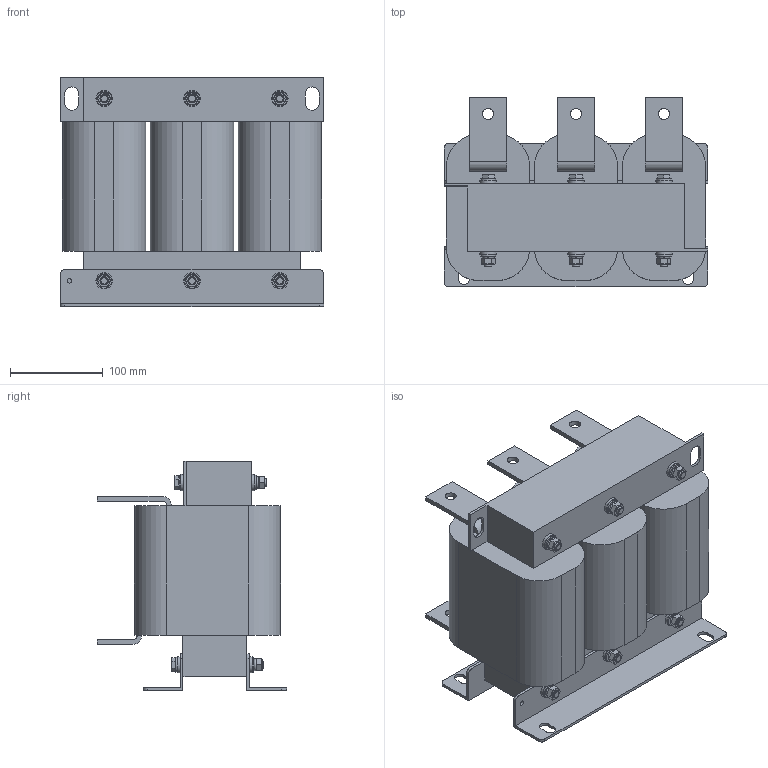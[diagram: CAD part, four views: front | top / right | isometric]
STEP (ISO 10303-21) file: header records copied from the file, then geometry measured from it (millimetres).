
FILE_DESCRIPTION(('STEP AP203'), '1');
FILE_NAME('栖闉罻 _ IMF-220_420-4', '', ('UNSPECIFIED'), ('UNSPECIFIED'), 'ASCON STEP Converter 1.6', 'ASCON Math Kernel', '');
FILE_SCHEMA(('CONFIG_CONTROL_DESIGN'));
Length unit declared in the file: millimetre
Products named in the file (12): IMF-220_420-4
Assembly tree (55 placements, depth 2):
  IMF-220_420-4
    IMF-220_420-4
    IMF-220_420-4  x2
    IMF-220_420-4  x3
    IMF-220_420-4  x3
    IMF-220_420-4  x3
    IMF-220_420-4
    IMF-220_420-4  x12
    IMF-220_420-4  x12
    IMF-220_420-4  x6
    IMF-220_420-4  x6
    IMF-220_420-4  x6
Bounding box: 285 x 204.5 x 248 mm (x, y, z)
Volume: 7335086.4 mm3; surface area: 567818.6 mm2
Topology: 55 solids, 55 shells, 552 faces, 1146 edges, 710 vertices
Faces by surface type: plane 404, cylinder 124, cone 18, torus 6
Full cylindrical faces by diameter (mm): 5 x2, 8 x48, 12 x6, 16 x12, 17.6 x12
Entity records: 5902 total; most frequent: CARTESIAN_POINT 971, DIRECTION 766, ORIENTED_EDGE 598, EDGE_CURVE 299, AXIS2_PLACEMENT_3D 274, LINE 218, VECTOR 218, VERTEX_POINT 205
